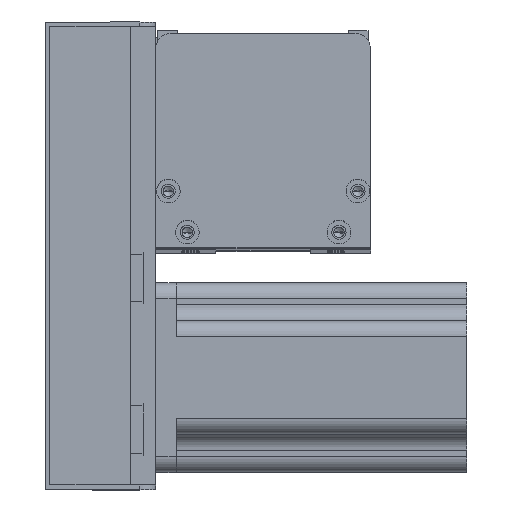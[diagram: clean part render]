
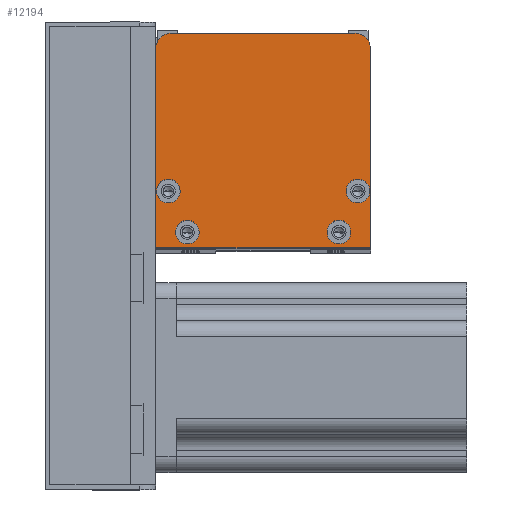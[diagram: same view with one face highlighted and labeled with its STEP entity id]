
A CAD part, top view. The second image highlights one B-rep face of the part: STEP entity #12194.
In plain terms, the highlighted planar face has unit normal (0, 0, 1) as drawn and (0, 0, -1) by its records, which use the part's own axes.
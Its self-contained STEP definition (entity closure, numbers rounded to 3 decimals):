
#396 = ORIENTED_EDGE ( 'NONE', *, *, #12708, .F. ) ;
#708 = EDGE_LOOP ( 'NONE', ( #25501, #396 ) ) ;
#1037 = EDGE_CURVE ( 'NONE', #10860, #3059, #14605, .T. ) ;
#1182 = CARTESIAN_POINT ( 'NONE',  ( 13.75, 5., 0. ) ) ;
#1197 = CARTESIAN_POINT ( 'NONE',  ( 10., 5., 0. ) ) ;
#1300 = AXIS2_PLACEMENT_3D ( 'NONE', #10981, #23952, #13143 ) ;
#2125 = EDGE_CURVE ( 'NONE', #12165, #19795, #13838, .T. ) ;
#2236 = DIRECTION ( 'NONE',  ( 0., -1., 0. ) ) ;
#2344 = LINE ( 'NONE', #17000, #13441 ) ;
#2376 = DIRECTION ( 'NONE',  ( 0., 0., -1. ) ) ;
#2535 = ORIENTED_EDGE ( 'NONE', *, *, #1037, .F. ) ;
#2551 = CARTESIAN_POINT ( 'NONE',  ( 0., 0., 0. ) ) ;
#2862 = EDGE_LOOP ( 'NONE', ( #4836, #2535 ) ) ;
#2893 = EDGE_CURVE ( 'NONE', #14714, #25632, #5731, .T. ) ;
#3059 = VERTEX_POINT ( 'NONE', #14627 ) ;
#3110 = LINE ( 'NONE', #6649, #3633 ) ;
#3257 = EDGE_LOOP ( 'NONE', ( #25760, #23092 ) ) ;
#3312 = DIRECTION ( 'NONE',  ( 0., 1., 0. ) ) ;
#3633 = VECTOR ( 'NONE', #2236, 1000. ) ;
#3905 = DIRECTION ( 'NONE',  ( -1., 0., 0. ) ) ;
#3981 = DIRECTION ( 'NONE',  ( 1., 0., 0. ) ) ;
#4526 = DIRECTION ( 'NONE',  ( -1., 0., 0. ) ) ;
#4589 = AXIS2_PLACEMENT_3D ( 'NONE', #23206, #10224, #25378 ) ;
#4789 = CIRCLE ( 'NONE', #5988, 5. ) ;
#4836 = ORIENTED_EDGE ( 'NONE', *, *, #17560, .F. ) ;
#4900 = AXIS2_PLACEMENT_3D ( 'NONE', #19772, #8883, #9164 ) ;
#4951 = DIRECTION ( 'NONE',  ( -1., 0., 0. ) ) ;
#4974 = VERTEX_POINT ( 'NONE', #24700 ) ;
#5050 = VERTEX_POINT ( 'NONE', #7850 ) ;
#5368 = AXIS2_PLACEMENT_3D ( 'NONE', #24191, #11582, #15779 ) ;
#5537 = VERTEX_POINT ( 'NONE', #18691 ) ;
#5731 = LINE ( 'NONE', #16140, #18933 ) ;
#5988 = AXIS2_PLACEMENT_3D ( 'NONE', #15064, #9807, #3981 ) ;
#6221 = CIRCLE ( 'NONE', #4589, 3.75 ) ;
#6420 = FACE_BOUND ( 'NONE', #708, .T. ) ;
#6453 = DIRECTION ( 'NONE',  ( 0., 0., -1. ) ) ;
#6539 = AXIS2_PLACEMENT_3D ( 'NONE', #11008, #21816, #6673 ) ;
#6649 = CARTESIAN_POINT ( 'NONE',  ( 0., 0., 0. ) ) ;
#6673 = DIRECTION ( 'NONE',  ( 1., 0., 0. ) ) ;
#6721 = CARTESIAN_POINT ( 'NONE',  ( 54.25, 5., 0. ) ) ;
#6743 = FACE_BOUND ( 'NONE', #2862, .T. ) ;
#6933 = CARTESIAN_POINT ( 'NONE',  ( 68., 68., 0. ) ) ;
#7035 = CIRCLE ( 'NONE', #11420, 3.75 ) ;
#7087 = FACE_BOUND ( 'NONE', #3257, .T. ) ;
#7261 = CIRCLE ( 'NONE', #21546, 3.75 ) ;
#7850 = CARTESIAN_POINT ( 'NONE',  ( 60.25, 18., 0. ) ) ;
#8018 = CARTESIAN_POINT ( 'NONE',  ( 7.75, 18., 0. ) ) ;
#8482 = ORIENTED_EDGE ( 'NONE', *, *, #2125, .F. ) ;
#8596 = EDGE_CURVE ( 'NONE', #13125, #4974, #19119, .T. ) ;
#8635 = CARTESIAN_POINT ( 'NONE',  ( 64., 18., 0. ) ) ;
#8706 = DIRECTION ( 'NONE',  ( -1., 0., 0. ) ) ;
#8821 = CARTESIAN_POINT ( 'NONE',  ( 0., 63., 0. ) ) ;
#8883 = DIRECTION ( 'NONE',  ( 0., 0., 1. ) ) ;
#9136 = VERTEX_POINT ( 'NONE', #8018 ) ;
#9164 = DIRECTION ( 'NONE',  ( 1., 0., 0. ) ) ;
#9807 = DIRECTION ( 'NONE',  ( 0., 0., -1. ) ) ;
#10202 = ORIENTED_EDGE ( 'NONE', *, *, #2893, .F. ) ;
#10224 = DIRECTION ( 'NONE',  ( 0., 0., -1. ) ) ;
#10260 = EDGE_CURVE ( 'NONE', #5050, #5537, #21065, .T. ) ;
#10860 = VERTEX_POINT ( 'NONE', #1182 ) ;
#10981 = CARTESIAN_POINT ( 'NONE',  ( 58., 5., 0. ) ) ;
#11008 = CARTESIAN_POINT ( 'NONE',  ( 5., 63., 0. ) ) ;
#11021 = EDGE_CURVE ( 'NONE', #13125, #25632, #4789, .T. ) ;
#11256 = EDGE_LOOP ( 'NONE', ( #14002, #12187, #21185, #19607, #10202, #18690 ) ) ;
#11302 = VERTEX_POINT ( 'NONE', #19352 ) ;
#11420 = AXIS2_PLACEMENT_3D ( 'NONE', #25699, #21465, #27885 ) ;
#11465 = FACE_OUTER_BOUND ( 'NONE', #11256, .T. ) ;
#11536 = CARTESIAN_POINT ( 'NONE',  ( 63., 68., 0. ) ) ;
#11582 = DIRECTION ( 'NONE',  ( 0., 0., -1. ) ) ;
#11757 = AXIS2_PLACEMENT_3D ( 'NONE', #1197, #19010, #3905 ) ;
#11781 = CARTESIAN_POINT ( 'NONE',  ( 64., 18., 0. ) ) ;
#11878 = CARTESIAN_POINT ( 'NONE',  ( 68., 0., 0. ) ) ;
#12165 = VERTEX_POINT ( 'NONE', #6721 ) ;
#12187 = ORIENTED_EDGE ( 'NONE', *, *, #27386, .T. ) ;
#12194 = ADVANCED_FACE ( 'NONE', ( #7087, #6420, #6743, #17243, #11465 ), #17674, .F. ) ;
#12588 = EDGE_CURVE ( 'NONE', #15616, #14714, #2344, .T. ) ;
#12708 = EDGE_CURVE ( 'NONE', #9136, #11302, #7035, .T. ) ;
#12768 = CARTESIAN_POINT ( 'NONE',  ( 10., 5., 0. ) ) ;
#13125 = VERTEX_POINT ( 'NONE', #11536 ) ;
#13143 = DIRECTION ( 'NONE',  ( -1., 0., 0. ) ) ;
#13441 = VECTOR ( 'NONE', #16916, 1000. ) ;
#13703 = ORIENTED_EDGE ( 'NONE', *, *, #25872, .F. ) ;
#13838 = CIRCLE ( 'NONE', #1300, 3.75 ) ;
#13948 = EDGE_CURVE ( 'NONE', #11302, #9136, #6221, .T. ) ;
#14002 = ORIENTED_EDGE ( 'NONE', *, *, #26967, .F. ) ;
#14605 = CIRCLE ( 'NONE', #25503, 3.75 ) ;
#14627 = CARTESIAN_POINT ( 'NONE',  ( 6.25, 5., 0. ) ) ;
#14714 = VERTEX_POINT ( 'NONE', #11878 ) ;
#15064 = CARTESIAN_POINT ( 'NONE',  ( 63., 63., 0. ) ) ;
#15616 = VERTEX_POINT ( 'NONE', #2551 ) ;
#15779 = DIRECTION ( 'NONE',  ( -1., 0., 0. ) ) ;
#16140 = CARTESIAN_POINT ( 'NONE',  ( 68., 0., 0. ) ) ;
#16916 = DIRECTION ( 'NONE',  ( 1., 0., 0. ) ) ;
#17000 = CARTESIAN_POINT ( 'NONE',  ( 68., 0., 0. ) ) ;
#17243 = FACE_BOUND ( 'NONE', #20711, .T. ) ;
#17560 = EDGE_CURVE ( 'NONE', #3059, #10860, #22959, .T. ) ;
#17674 = PLANE ( 'NONE',  #4900 ) ;
#18690 = ORIENTED_EDGE ( 'NONE', *, *, #12588, .F. ) ;
#18691 = CARTESIAN_POINT ( 'NONE',  ( 67.75, 18., 0. ) ) ;
#18933 = VECTOR ( 'NONE', #3312, 1000. ) ;
#19010 = DIRECTION ( 'NONE',  ( 0., 0., -1. ) ) ;
#19119 = LINE ( 'NONE', #6933, #19770 ) ;
#19343 = DIRECTION ( 'NONE',  ( 0., 0., -1. ) ) ;
#19352 = CARTESIAN_POINT ( 'NONE',  ( 0.25, 18., 0. ) ) ;
#19586 = CIRCLE ( 'NONE', #6539, 5. ) ;
#19607 = ORIENTED_EDGE ( 'NONE', *, *, #11021, .T. ) ;
#19770 = VECTOR ( 'NONE', #4951, 1000. ) ;
#19772 = CARTESIAN_POINT ( 'NONE',  ( 0., 0., 0. ) ) ;
#19795 = VERTEX_POINT ( 'NONE', #23041 ) ;
#20678 = CIRCLE ( 'NONE', #5368, 3.75 ) ;
#20711 = EDGE_LOOP ( 'NONE', ( #8482, #13703 ) ) ;
#21065 = CIRCLE ( 'NONE', #24393, 3.75 ) ;
#21105 = CARTESIAN_POINT ( 'NONE',  ( 68., 63., 0. ) ) ;
#21185 = ORIENTED_EDGE ( 'NONE', *, *, #8596, .F. ) ;
#21280 = VERTEX_POINT ( 'NONE', #8821 ) ;
#21465 = DIRECTION ( 'NONE',  ( 0., 0., -1. ) ) ;
#21546 = AXIS2_PLACEMENT_3D ( 'NONE', #8635, #19343, #26072 ) ;
#21816 = DIRECTION ( 'NONE',  ( 0., 0., -1. ) ) ;
#22960 = EDGE_CURVE ( 'NONE', #5537, #5050, #7261, .T. ) ;
#22959 = CIRCLE ( 'NONE', #11757, 3.75 ) ;
#23041 = CARTESIAN_POINT ( 'NONE',  ( 61.75, 5., 0. ) ) ;
#23092 = ORIENTED_EDGE ( 'NONE', *, *, #22960, .F. ) ;
#23206 = CARTESIAN_POINT ( 'NONE',  ( 4., 18., 0. ) ) ;
#23952 = DIRECTION ( 'NONE',  ( 0., 0., -1. ) ) ;
#24191 = CARTESIAN_POINT ( 'NONE',  ( 58., 5., 0. ) ) ;
#24393 = AXIS2_PLACEMENT_3D ( 'NONE', #11781, #2376, #4526 ) ;
#24700 = CARTESIAN_POINT ( 'NONE',  ( 5., 68., 0. ) ) ;
#25378 = DIRECTION ( 'NONE',  ( -1., 0., 0. ) ) ;
#25501 = ORIENTED_EDGE ( 'NONE', *, *, #13948, .F. ) ;
#25503 = AXIS2_PLACEMENT_3D ( 'NONE', #12768, #6453, #8706 ) ;
#25632 = VERTEX_POINT ( 'NONE', #21105 ) ;
#25699 = CARTESIAN_POINT ( 'NONE',  ( 4., 18., 0. ) ) ;
#25760 = ORIENTED_EDGE ( 'NONE', *, *, #10260, .F. ) ;
#25872 = EDGE_CURVE ( 'NONE', #19795, #12165, #20678, .T. ) ;
#26072 = DIRECTION ( 'NONE',  ( -1., 0., 0. ) ) ;
#26967 = EDGE_CURVE ( 'NONE', #21280, #15616, #3110, .T. ) ;
#27386 = EDGE_CURVE ( 'NONE', #21280, #4974, #19586, .T. ) ;
#27885 = DIRECTION ( 'NONE',  ( -1., 0., 0. ) ) ;
